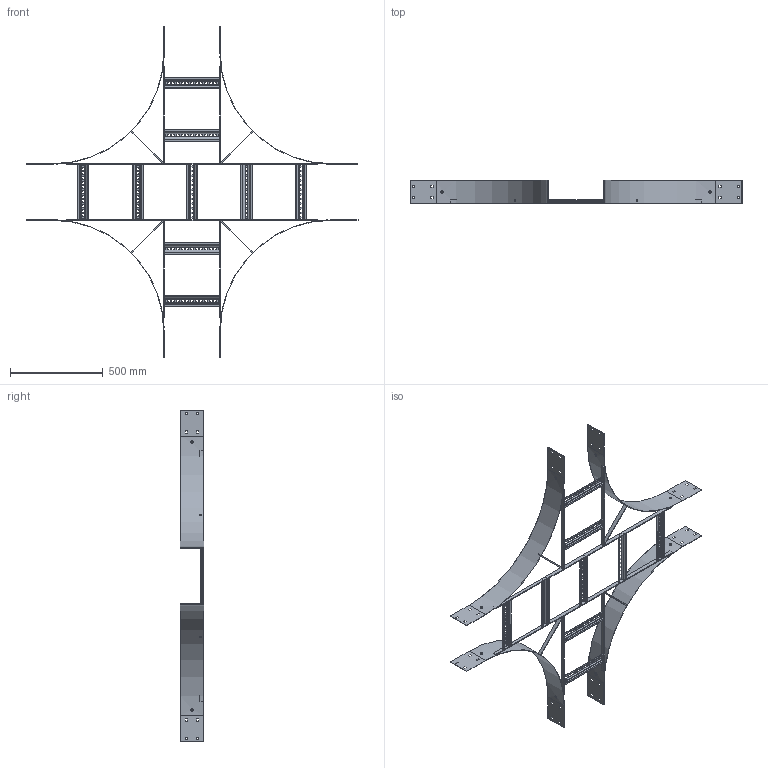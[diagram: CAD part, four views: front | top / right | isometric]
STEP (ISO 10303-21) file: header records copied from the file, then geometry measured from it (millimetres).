
FILE_DESCRIPTION (( 'STEP AP203' ), '1' );
FILE_NAME ('N3 C 3006.STEP', '2024-08-27T05:47:19', ( '' ), ( '' ), 'SwSTEP 2.0', 'SolidWorks 2023', '' );
FILE_SCHEMA (( 'CONFIG_CONTROL_DESIGN' ));
Length unit declared in the file: millimetre
Products named in the file (6): Ladder Rung_Ladder Rung -  300mm; N3 RADIUS PLATE_N1-600 IR; Ladder Tee 20x5 Flat Bar_518; Ladder Tee 20x5 Flat Bar_240; Ladder Tee 20x5 Flat Bar_1345; N3 C 3006
Assembly tree (23 placements, depth 2):
  N3 C 3006
    Ladder Rung_Ladder Rung -  300mm  x9
    Ladder Tee 20x5 Flat Bar_1345  x2
    N3 RADIUS PLATE_N1-600 IR  x4
    Ladder Tee 20x5 Flat Bar_518  x4
    Ladder Tee 20x5 Flat Bar_240  x4
Bounding box: 1785 x 124 x 1785 mm (x, y, z)
Volume: 2064740.2 mm3; surface area: 1898478.8 mm2
Topology: 23 solids, 23 shells, 1070 faces, 2752 edges, 1728 vertices
Faces by surface type: plane 974, cylinder 96
Entity records: 6268 total; most frequent: CARTESIAN_POINT 1188, ORIENTED_EDGE 808, DIRECTION 784, EDGE_CURVE 404, LINE 376, VECTOR 376, VERTEX_POINT 256, AXIS2_PLACEMENT_3D 204
